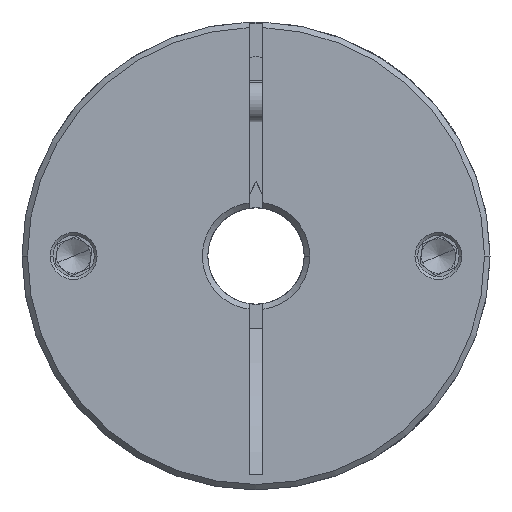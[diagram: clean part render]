
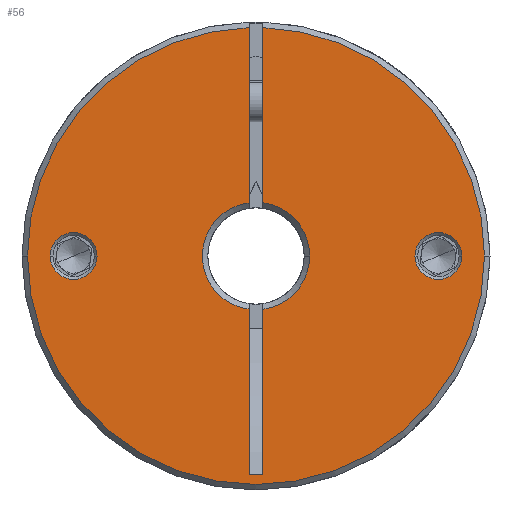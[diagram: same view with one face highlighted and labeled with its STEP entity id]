
A CAD part, front view. The second image highlights one B-rep face of the part: STEP entity #56.
In plain terms, the highlighted planar face has unit normal (0, -1, 0).
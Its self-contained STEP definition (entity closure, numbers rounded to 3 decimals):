
#56 = ADVANCED_FACE ( 'NONE', ( #1775, #8881, #4091 ), #12970, .T. ) ;
#91 = DIRECTION ( 'NONE',  ( 0., 1., 0. ) ) ;
#238 = CIRCLE ( 'NONE', #3168, 3.4 ) ;
#277 = DIRECTION ( 'NONE',  ( 0., 1., 0. ) ) ;
#426 = VERTEX_POINT ( 'NONE', #3138 ) ;
#504 = EDGE_LOOP ( 'NONE', ( #765, #4545 ) ) ;
#510 = CIRCLE ( 'NONE', #11916, 3.4 ) ;
#530 = EDGE_CURVE ( 'NONE', #2501, #11413, #5428, .T. ) ;
#667 = LINE ( 'NONE', #4851, #7746 ) ;
#744 = DIRECTION ( 'NONE',  ( 0., -1., 0. ) ) ;
#765 = ORIENTED_EDGE ( 'NONE', *, *, #12085, .T. ) ;
#878 = AXIS2_PLACEMENT_3D ( 'NONE', #10262, #744, #9238 ) ;
#968 = VECTOR ( 'NONE', #12002, 1000. ) ;
#1118 = CARTESIAN_POINT ( 'NONE',  ( -2.735, -47.045, 68. ) ) ;
#1293 = LINE ( 'NONE', #2577, #968 ) ;
#1306 = CIRCLE ( 'NONE', #3359, 3.4 ) ;
#1317 = CARTESIAN_POINT ( 'NONE',  ( 30.465, -47.045, 68. ) ) ;
#1597 = AXIS2_PLACEMENT_3D ( 'NONE', #6668, #13049, #11965 ) ;
#1616 = AXIS2_PLACEMENT_3D ( 'NONE', #9334, #8346, #11666 ) ;
#1746 = CARTESIAN_POINT ( 'NONE',  ( -1.735, -47.045, 36.279 ) ) ;
#1775 = FACE_BOUND ( 'NONE', #3612, .T. ) ;
#1834 = LINE ( 'NONE', #12678, #2186 ) ;
#1901 = ORIENTED_EDGE ( 'NONE', *, *, #11639, .T. ) ;
#2186 = VECTOR ( 'NONE', #2252, 1000. ) ;
#2191 = VERTEX_POINT ( 'NONE', #13272 ) ;
#2252 = DIRECTION ( 'NONE',  ( 0., 0., -1. ) ) ;
#2317 = CARTESIAN_POINT ( 'NONE',  ( -2.735, -47.045, 68. ) ) ;
#2388 = DIRECTION ( 'NONE',  ( 1., 0., 0. ) ) ;
#2501 = VERTEX_POINT ( 'NONE', #2988 ) ;
#2577 = CARTESIAN_POINT ( 'NONE',  ( -1.735, -47.045, 68. ) ) ;
#2988 = CARTESIAN_POINT ( 'NONE',  ( -32.635, -47.045, 68. ) ) ;
#3012 = VECTOR ( 'NONE', #3222, 1000. ) ;
#3030 = EDGE_CURVE ( 'NONE', #8921, #11327, #4104, .T. ) ;
#3138 = CARTESIAN_POINT ( 'NONE',  ( 27.165, -47.045, 68. ) ) ;
#3167 = CIRCLE ( 'NONE', #6257, 7.8 ) ;
#3168 = AXIS2_PLACEMENT_3D ( 'NONE', #6783, #6918, #5877 ) ;
#3222 = DIRECTION ( 'NONE',  ( 0., 0., -1. ) ) ;
#3327 = CARTESIAN_POINT ( 'NONE',  ( -3.735, -47.045, 36.279 ) ) ;
#3359 = AXIS2_PLACEMENT_3D ( 'NONE', #11189, #13206, #12115 ) ;
#3388 = LINE ( 'NONE', #5889, #10985 ) ;
#3477 = AXIS2_PLACEMENT_3D ( 'NONE', #4339, #8699, #2388 ) ;
#3544 = CARTESIAN_POINT ( 'NONE',  ( 23.765, -47.045, 68. ) ) ;
#3612 = EDGE_LOOP ( 'NONE', ( #11610, #9593 ) ) ;
#3623 = DIRECTION ( 'NONE',  ( 1., 0., 0. ) ) ;
#3884 = VERTEX_POINT ( 'NONE', #7546 ) ;
#3941 = CIRCLE ( 'NONE', #7230, 33.2 ) ;
#4091 = FACE_OUTER_BOUND ( 'NONE', #11502, .T. ) ;
#4104 = CIRCLE ( 'NONE', #8101, 33.2 ) ;
#4258 = ORIENTED_EDGE ( 'NONE', *, *, #5128, .T. ) ;
#4339 = CARTESIAN_POINT ( 'NONE',  ( -29.235, -47.045, 68. ) ) ;
#4449 = CARTESIAN_POINT ( 'NONE',  ( -25.835, -47.045, 68. ) ) ;
#4545 = ORIENTED_EDGE ( 'NONE', *, *, #530, .T. ) ;
#4549 = VERTEX_POINT ( 'NONE', #1746 ) ;
#4851 = CARTESIAN_POINT ( 'NONE',  ( -3.735, -47.045, 36.279 ) ) ;
#4864 = CIRCLE ( 'NONE', #12684, 7.8 ) ;
#4995 = DIRECTION ( 'NONE',  ( -1., 0., 0. ) ) ;
#5128 = EDGE_CURVE ( 'NONE', #7775, #11546, #12065, .T. ) ;
#5235 = DIRECTION ( 'NONE',  ( 0., 0., -1. ) ) ;
#5281 = DIRECTION ( 'NONE',  ( 1., 0., 0. ) ) ;
#5394 = EDGE_CURVE ( 'NONE', #426, #12768, #510, .T. ) ;
#5428 = CIRCLE ( 'NONE', #3477, 3.4 ) ;
#5791 = CARTESIAN_POINT ( 'NONE',  ( -35.935, -47.045, 68. ) ) ;
#5877 = DIRECTION ( 'NONE',  ( 1., 0., 0. ) ) ;
#5889 = CARTESIAN_POINT ( 'NONE',  ( -1.735, -47.045, 68. ) ) ;
#5918 = EDGE_CURVE ( 'NONE', #11546, #8921, #3941, .T. ) ;
#6149 = CARTESIAN_POINT ( 'NONE',  ( -1.735, -47.045, 60.264 ) ) ;
#6257 = AXIS2_PLACEMENT_3D ( 'NONE', #6411, #91, #10587 ) ;
#6297 = DIRECTION ( 'NONE',  ( 0., -1., 0. ) ) ;
#6382 = CARTESIAN_POINT ( 'NONE',  ( -3.735, -47.045, 68. ) ) ;
#6411 = CARTESIAN_POINT ( 'NONE',  ( -2.735, -47.045, 68. ) ) ;
#6418 = ORIENTED_EDGE ( 'NONE', *, *, #12716, .F. ) ;
#6451 = EDGE_CURVE ( 'NONE', #3884, #6927, #7639, .T. ) ;
#6477 = CARTESIAN_POINT ( 'NONE',  ( 20.365, -47.045, 68. ) ) ;
#6668 = CARTESIAN_POINT ( 'NONE',  ( -2.735, -47.045, 68. ) ) ;
#6701 = EDGE_CURVE ( 'NONE', #12768, #426, #1306, .T. ) ;
#6783 = CARTESIAN_POINT ( 'NONE',  ( -29.235, -47.045, 68. ) ) ;
#6918 = DIRECTION ( 'NONE',  ( 0., 1., 0. ) ) ;
#6927 = VERTEX_POINT ( 'NONE', #3327 ) ;
#6995 = CIRCLE ( 'NONE', #1616, 7.8 ) ;
#7230 = AXIS2_PLACEMENT_3D ( 'NONE', #9429, #6297, #5281 ) ;
#7546 = CARTESIAN_POINT ( 'NONE',  ( -3.735, -47.045, 60.264 ) ) ;
#7551 = CARTESIAN_POINT ( 'NONE',  ( -1.735, -47.045, 101.185 ) ) ;
#7639 = LINE ( 'NONE', #6382, #3012 ) ;
#7746 = VECTOR ( 'NONE', #4995, 1000. ) ;
#7775 = VERTEX_POINT ( 'NONE', #9141 ) ;
#8101 = AXIS2_PLACEMENT_3D ( 'NONE', #2317, #10680, #10780 ) ;
#8272 = EDGE_CURVE ( 'NONE', #4549, #6927, #667, .T. ) ;
#8346 = DIRECTION ( 'NONE',  ( 0., 1., 0. ) ) ;
#8388 = EDGE_CURVE ( 'NONE', #11327, #9450, #1293, .T. ) ;
#8699 = DIRECTION ( 'NONE',  ( 0., 1., 0. ) ) ;
#8709 = EDGE_CURVE ( 'NONE', #2191, #13405, #6995, .T. ) ;
#8760 = ORIENTED_EDGE ( 'NONE', *, *, #9243, .T. ) ;
#8881 = FACE_BOUND ( 'NONE', #504, .T. ) ;
#8921 = VERTEX_POINT ( 'NONE', #1317 ) ;
#9141 = CARTESIAN_POINT ( 'NONE',  ( -3.735, -47.045, 101.185 ) ) ;
#9179 = VERTEX_POINT ( 'NONE', #12665 ) ;
#9238 = DIRECTION ( 'NONE',  ( 1., 0., 0. ) ) ;
#9243 = EDGE_CURVE ( 'NONE', #9450, #2191, #3167, .T. ) ;
#9334 = CARTESIAN_POINT ( 'NONE',  ( -2.735, -47.045, 68. ) ) ;
#9429 = CARTESIAN_POINT ( 'NONE',  ( -2.735, -47.045, 68. ) ) ;
#9450 = VERTEX_POINT ( 'NONE', #13232 ) ;
#9549 = DIRECTION ( 'NONE',  ( 1., 0., 0. ) ) ;
#9593 = ORIENTED_EDGE ( 'NONE', *, *, #6701, .T. ) ;
#9780 = ORIENTED_EDGE ( 'NONE', *, *, #3030, .T. ) ;
#10257 = ORIENTED_EDGE ( 'NONE', *, *, #8388, .T. ) ;
#10262 = CARTESIAN_POINT ( 'NONE',  ( -2.735, -47.045, 68. ) ) ;
#10288 = ORIENTED_EDGE ( 'NONE', *, *, #8272, .T. ) ;
#10586 = ORIENTED_EDGE ( 'NONE', *, *, #6451, .F. ) ;
#10587 = DIRECTION ( 'NONE',  ( 1., 0., 0. ) ) ;
#10680 = DIRECTION ( 'NONE',  ( 0., -1., 0. ) ) ;
#10780 = DIRECTION ( 'NONE',  ( 1., 0., 0. ) ) ;
#10922 = DIRECTION ( 'NONE',  ( 0., 1., 0. ) ) ;
#10969 = EDGE_CURVE ( 'NONE', #3884, #9179, #4864, .T. ) ;
#10985 = VECTOR ( 'NONE', #5235, 1000. ) ;
#11189 = CARTESIAN_POINT ( 'NONE',  ( 23.765, -47.045, 68. ) ) ;
#11327 = VERTEX_POINT ( 'NONE', #7551 ) ;
#11413 = VERTEX_POINT ( 'NONE', #4449 ) ;
#11502 = EDGE_LOOP ( 'NONE', ( #6418, #4258, #13266, #9780, #10257, #8760, #12108, #1901, #10288, #10586, #11656 ) ) ;
#11546 = VERTEX_POINT ( 'NONE', #5791 ) ;
#11610 = ORIENTED_EDGE ( 'NONE', *, *, #5394, .T. ) ;
#11639 = EDGE_CURVE ( 'NONE', #13405, #4549, #3388, .T. ) ;
#11656 = ORIENTED_EDGE ( 'NONE', *, *, #10969, .T. ) ;
#11666 = DIRECTION ( 'NONE',  ( 1., 0., 0. ) ) ;
#11916 = AXIS2_PLACEMENT_3D ( 'NONE', #3544, #10922, #3623 ) ;
#11965 = DIRECTION ( 'NONE',  ( 1., 0., 0. ) ) ;
#12002 = DIRECTION ( 'NONE',  ( 0., 0., -1. ) ) ;
#12065 = CIRCLE ( 'NONE', #878, 33.2 ) ;
#12085 = EDGE_CURVE ( 'NONE', #11413, #2501, #238, .T. ) ;
#12108 = ORIENTED_EDGE ( 'NONE', *, *, #8709, .T. ) ;
#12115 = DIRECTION ( 'NONE',  ( 1., 0., 0. ) ) ;
#12665 = CARTESIAN_POINT ( 'NONE',  ( -3.735, -47.045, 75.736 ) ) ;
#12678 = CARTESIAN_POINT ( 'NONE',  ( -3.735, -47.045, 68. ) ) ;
#12684 = AXIS2_PLACEMENT_3D ( 'NONE', #1118, #277, #9549 ) ;
#12716 = EDGE_CURVE ( 'NONE', #7775, #9179, #1834, .T. ) ;
#12768 = VERTEX_POINT ( 'NONE', #6477 ) ;
#12970 = PLANE ( 'NONE',  #1597 ) ;
#13049 = DIRECTION ( 'NONE',  ( 0., -1., 0. ) ) ;
#13206 = DIRECTION ( 'NONE',  ( 0., 1., 0. ) ) ;
#13232 = CARTESIAN_POINT ( 'NONE',  ( -1.735, -47.045, 75.736 ) ) ;
#13266 = ORIENTED_EDGE ( 'NONE', *, *, #5918, .T. ) ;
#13272 = CARTESIAN_POINT ( 'NONE',  ( 5.065, -47.045, 68. ) ) ;
#13405 = VERTEX_POINT ( 'NONE', #6149 ) ;
